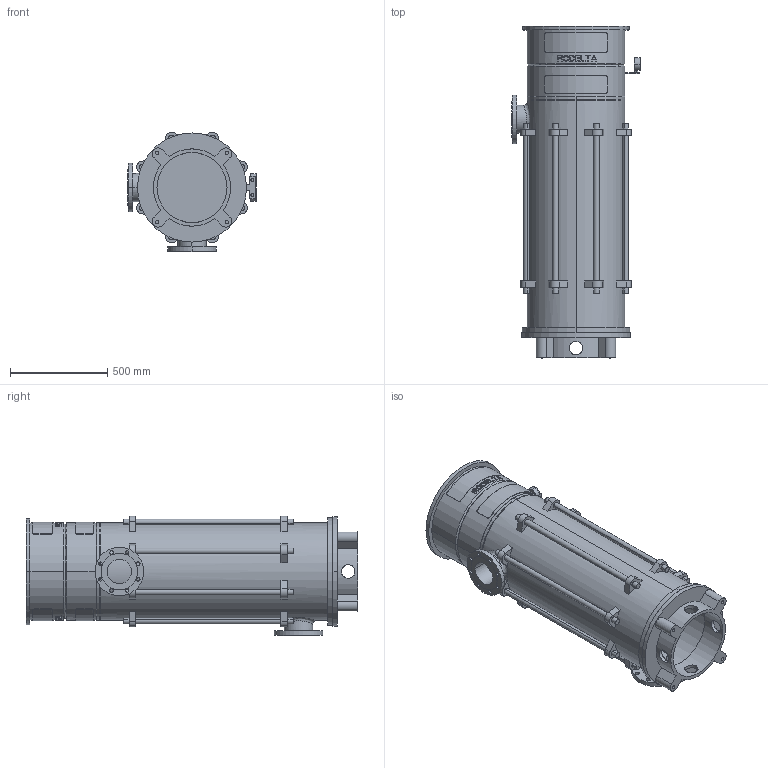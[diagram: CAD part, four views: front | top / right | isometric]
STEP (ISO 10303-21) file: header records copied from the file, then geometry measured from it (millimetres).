
FILE_DESCRIPTION((''),'2;1');
FILE_NAME('LS5_7TR_0GR_ABOVE_30KW','2023-08-07T',('Lyritlocal'),(''),'PRO/ENGINEER BY PARAMETRIC TECHNOLOGY CORPORATION, 2016360','PRO/ENGINEER BY PARAMETRIC TECHNOLOGY CORPORATION, 2016360','');
FILE_SCHEMA(('CONFIG_CONTROL_DESIGN'));
Length unit declared in the file: millimetre
Products named in the file (1): LS5_7TR_0GR_ABOVE_30KW
Bounding box: 660 x 1704 x 614.04 mm (x, y, z)
Volume: 49377465.4 mm3; surface area: 7401586.5 mm2
Topology: 3 solids, 7 shells, 672 faces, 1749 edges, 1158 vertices
Faces by surface type: plane 414, cylinder 242, cone 12, bspline 4
Entity records: 21880 total; most frequent: CARTESIAN_POINT 5428, ORIENTED_EDGE 3482, DIRECTION 3271, EDGE_CURVE 1749, AXIS2_PLACEMENT_3D 1241, VERTEX_POINT 1158, EDGE_LOOP 807, VECTOR 789
